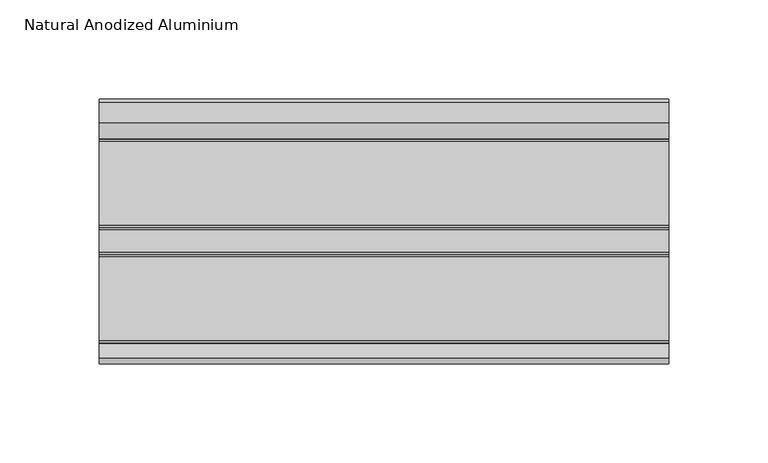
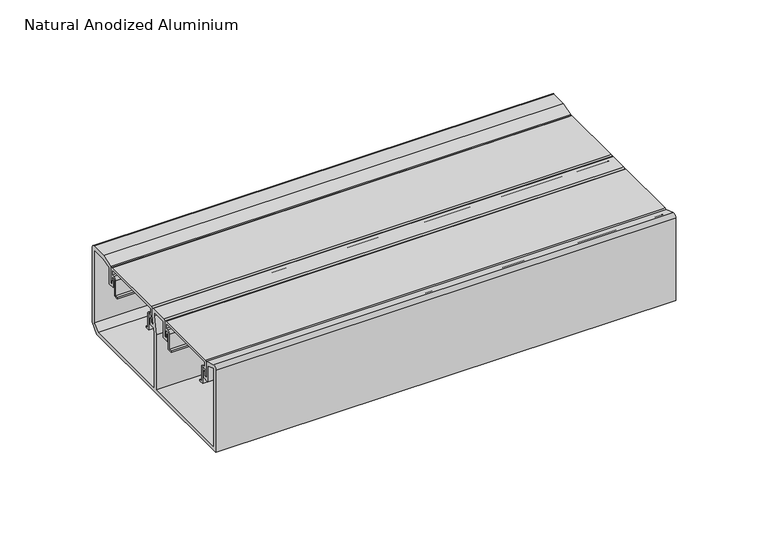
"""IFC4 building model written with IfcOpenShell, lengths in millimetres: proxy geometry, Electrical_Installations_Hager_GBA-Flat-Lid-End-Cap : Natural Anodized Aluminium."""

from ifc_helpers import new_model, si_unit, point, frame, frame_2d, origin, place, context, project, spatial, polyline, circle_curve, trimmed, segment, composite_curve, outline, extrude, source, transform, mapped, element, save


def natural_anodized_aluminium_cf1d3b34(model_context):
    return source(origin(), model_context, "Body", "SweptSolid", [
        extrude(outline(composite_curve([segment(polyline([(-64.6976563, 54.0894343), (-64.6976563, 2.0), (-2.2476563, 2.0), (-2.2476563, 38.3324137), (-0.2476563, 49.6749773), (-0.2476563, 52.0), (-9.8476563, 52.0), (-9.8476563, 41.5012147), (-14.5382813, 41.5012147), (-14.5382813, 45.748101), (-13.5382813, 45.748101), (-13.5382813, 42.9887147), (-11.6476563, 42.9887147), (-11.6476563, 53.0031102)]), True, "CONTINUOUS"), segment(trimmed(circle_curve(frame_2d((-10.6507665, 53.0031102)), 0.9968898), [point((-11.6476563, 53.0031102))], [point((-10.6507665, 54.0))], False, "CARTESIAN"), True, "CONTINUOUS"), segment(polyline([(-10.6507665, 54.0), (0.7441474, 54.0)]), True, "CONTINUOUS"), segment(trimmed(circle_curve(frame_2d((0.7441474, 52.9918037)), 1.0081963), [point((0.7441474, 54.0))], [point((1.7523437, 52.9918037))], False, "CARTESIAN"), True, "CONTINUOUS"), segment(polyline([(1.7523437, 52.9918037), (1.7523437, 49.5), (0.6591165, 43.3), (3.2523437, 43.3), (3.2523437, 45.7537431), (4.2523437, 45.7537431), (4.2523437, 41.5), (0.3417279, 41.5), (-0.2476563, 38.1574364), (-0.2476563, 2.0), (60.5496526, 2.0), (64.5023437, 5.9526912), (64.5023437, 54.2), (54.8614746, 54.2), (48.5523437, 52.1500391), (48.5523437, 41.5), (44.2523437, 41.5), (44.2523437, 45.7556921), (45.2523437, 45.7556921), (45.2523437, 42.9887147), (46.7523437, 42.9887147), (46.7523437, 53.9835468), (54.4971904, 56.5), (64.8989144, 56.5)]), True, "CONTINUOUS"), segment(trimmed(circle_curve(frame_2d((64.8989144, 54.5965707)), 1.9034293), [point((64.8989144, 56.5))], [point((66.8023437, 54.5965707))], False, "CARTESIAN"), True, "CONTINUOUS"), segment(polyline([(66.8023437, 54.5965707), (66.8023437, 5.0), (61.8023437, 0.0), (-66.9976563, 0.0), (-66.9976563, 54.4045249)]), True, "CONTINUOUS"), segment(trimmed(circle_curve(frame_2d((-64.9278927, 54.4045249)), 2.0697636), [point((-66.9976563, 54.4045249))], [point((-64.2989994, 56.3764312))], False, "CARTESIAN"), True, "CONTINUOUS"), segment(polyline([(-64.2989994, 56.3764312), (-56.8429688, 53.998505), (-56.8429688, 42.9887147), (-54.6789063, 42.9887147), (-54.6789063, 45.7565885), (-53.6789063, 45.7565885), (-53.6789063, 41.5012147), (-58.4476563, 41.5012147), (-58.4476563, 52.0961433), (-64.6976563, 54.0894343)]), True, "CONTINUOUS")], self_intersect=False)), frame((0.0, 0.0, 0.0), z_axis=(1.0, 0.0, 0.0), x_axis=(0.0, 1.0, 0.0)), (0.0, 0.0, 1.0), 287.5),
        extrude(outline(composite_curve([segment(polyline([(-13.1613464, 52.5816445), (-55.0613464, 52.5816445), (-55.0613464, 49.2816445), (-53.7229555, 49.2816445)]), True, "CONTINUOUS"), segment(trimmed(circle_curve(frame_2d((-53.7229555, 47.1700354)), 2.1116091), [point((-53.7229555, 49.2816445))], [point((-51.6113464, 47.1700354))], False, "CARTESIAN"), True, "CONTINUOUS"), segment(polyline([(-51.6113464, 47.1700354), (-51.6113464, 37.6816445), (-49.7113464, 37.6816445), (-49.7113464, 36.8816445), (-52.6113464, 36.8816445), (-52.6113464, 47.3262929)]), True, "CONTINUOUS"), segment(trimmed(circle_curve(frame_2d((-53.566698, 47.3262929)), 0.9553516), [point((-52.6113464, 47.3262929))], [point((-53.566698, 48.2816445))], True, "CARTESIAN"), True, "CONTINUOUS"), segment(polyline([(-53.566698, 48.2816445), (-55.3644879, 48.2816445), (-55.3644879, 43.8012242), (-56.3660339, 43.8012242), (-56.3660339, 53.0900381)]), True, "CONTINUOUS"), segment(trimmed(circle_curve(frame_2d((-55.456072, 53.0900381)), 0.9099619), [point((-56.3660339, 53.0900381))], [point((-55.456072, 54.0))], False, "CARTESIAN"), True, "CONTINUOUS"), segment(polyline([(-55.456072, 54.0), (-12.9820268, 54.0)]), True, "CONTINUOUS"), segment(trimmed(circle_curve(frame_2d((-12.9820268, 52.9918196)), 1.0081804), [point((-12.9820268, 54.0))], [point((-11.9738464, 52.9918196))], False, "CARTESIAN"), True, "CONTINUOUS"), segment(polyline([(-11.9738464, 52.9918196), (-11.9738464, 43.8012242), (-12.858205, 43.8012242), (-12.858205, 48.2816445), (-14.6025892, 48.2816445)]), True, "CONTINUOUS"), segment(trimmed(circle_curve(frame_2d((-14.6025892, 47.2728873)), 1.0087572), [point((-14.6025892, 48.2816445))], [point((-15.6113464, 47.2728873))], True, "CARTESIAN"), True, "CONTINUOUS"), segment(polyline([(-15.6113464, 47.2728873), (-15.6113464, 36.8816445), (-18.5113464, 36.8816445), (-18.5113464, 37.6816445), (-16.6113464, 37.6816445), (-16.6113464, 47.3197896)]), True, "CONTINUOUS"), segment(trimmed(circle_curve(frame_2d((-14.6494915, 47.3197896)), 1.9618549), [point((-16.6113464, 47.3197896))], [point((-14.6494915, 49.2816445))], False, "CARTESIAN"), True, "CONTINUOUS"), segment(polyline([(-14.6494915, 49.2816445), (-13.1613464, 49.2816445), (-13.1613464, 52.5816445)]), True, "CONTINUOUS")], self_intersect=False)), frame((0.0, 0.0, 0.0), z_axis=(1.0, 0.0, 0.0), x_axis=(0.0, 1.0, 0.0)), (0.0, 0.0, 1.0), 287.5),
        extrude(outline(composite_curve([segment(polyline([(45.1923672, 52.5816445), (3.2923672, 52.5816445), (3.2923672, 49.2816445), (4.6307581, 49.2816445)]), True, "CONTINUOUS"), segment(trimmed(circle_curve(frame_2d((4.6307581, 47.1700354)), 2.1116091), [point((4.6307581, 49.2816445))], [point((6.7423672, 47.1700354))], False, "CARTESIAN"), True, "CONTINUOUS"), segment(polyline([(6.7423672, 47.1700354), (6.7423672, 37.6816445), (8.6423672, 37.6816445), (8.6423672, 36.8816445), (5.7423672, 36.8816445), (5.7423672, 47.3262929)]), True, "CONTINUOUS"), segment(trimmed(circle_curve(frame_2d((4.7870156, 47.3262929)), 0.9553516), [point((5.7423672, 47.3262929))], [point((4.7870156, 48.2816445))], True, "CARTESIAN"), True, "CONTINUOUS"), segment(polyline([(4.7870156, 48.2816445), (2.9892258, 48.2816445), (2.9892258, 43.8231023), (1.9876797, 43.8231023), (1.9876797, 53.0900381)]), True, "CONTINUOUS"), segment(trimmed(circle_curve(frame_2d((2.8976417, 53.0900381)), 0.9099619), [point((1.9876797, 53.0900381))], [point((2.8976417, 54.0))], False, "CARTESIAN"), True, "CONTINUOUS"), segment(polyline([(2.8976417, 54.0), (45.3716869, 54.0)]), True, "CONTINUOUS"), segment(trimmed(circle_curve(frame_2d((45.3716869, 52.9918196)), 1.0081804), [point((45.3716869, 54.0))], [point((46.3798672, 52.9918196))], False, "CARTESIAN"), True, "CONTINUOUS"), segment(polyline([(46.3798672, 52.9918196), (46.3798672, 43.9733035), (45.4955087, 43.9733035), (45.4955087, 48.2816445), (43.7511244, 48.2816445)]), True, "CONTINUOUS"), segment(trimmed(circle_curve(frame_2d((43.7511244, 47.2728873)), 1.0087572), [point((43.7511244, 48.2816445))], [point((42.7423672, 47.2728873))], True, "CARTESIAN"), True, "CONTINUOUS"), segment(polyline([(42.7423672, 47.2728873), (42.7423672, 36.8816445), (39.8423672, 36.8816445), (39.8423672, 37.6816445), (41.7423672, 37.6816445), (41.7423672, 47.3197896)]), True, "CONTINUOUS"), segment(trimmed(circle_curve(frame_2d((43.7042221, 47.3197896)), 1.9618549), [point((41.7423672, 47.3197896))], [point((43.7042221, 49.2816445))], False, "CARTESIAN"), True, "CONTINUOUS"), segment(polyline([(43.7042221, 49.2816445), (45.1923672, 49.2816445), (45.1923672, 52.5816445)]), True, "CONTINUOUS")], self_intersect=False)), frame((0.0, 0.0, 0.0), z_axis=(1.0, 0.0, 0.0), x_axis=(0.0, 1.0, 0.0)), (0.0, 0.0, 1.0), 287.5),
    ])


if __name__ == "__main__":
    model = new_model("IFC4")
    model_context = context("Model", 3, world=origin())
    ifc_project = project(units=[si_unit("LENGTHUNIT", "METRE", prefix="MILLI")], contexts=[model_context])
    site = spatial("IfcSite", under=ifc_project)
    building = spatial("IfcBuilding", under=site)
    placement = place(None, origin())
    natural_anodized_aluminium_shape = natural_anodized_aluminium_cf1d3b34(model_context)
    element("IfcBuildingElementProxy", 1, Name="Electrical_Installations_Hager_GBA-Flat-Lid-End-Cap : Natural Anodized Aluminium", ObjectType="Electrical_Installations_Hager_GBA-Flat-Lid-End-Cap : Natural Anodized Aluminium", at=placement, inside=building, context=model_context, shape_type="MappedRepresentation", body=[
        mapped(natural_anodized_aluminium_shape, transform((0.0, 0.0, 0.0), x_axis=(1.0, 0.0, 0.0), y_axis=(0.0, 1.0, 0.0), z_axis=(0.0, 0.0, 1.0))),
    ])
    save(model, "model.ifc")
